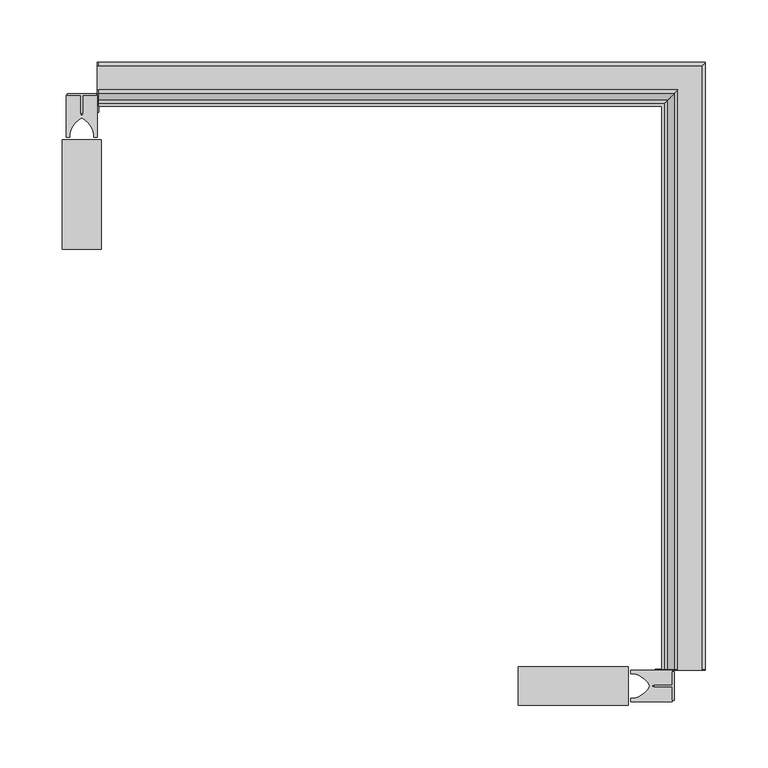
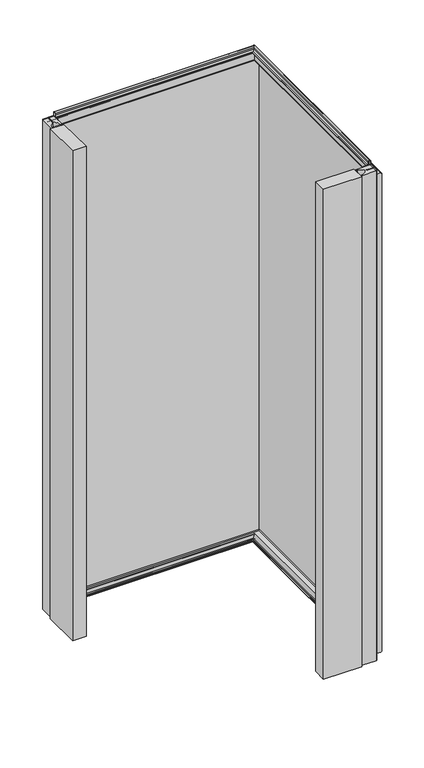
"""IFC4 building model written with IfcOpenShell, lengths in millimetres: plate geometry, Угловой модуль Fronttop : Угловой модуль Fronttop 150/1190."""

import ifcopenshell
import ifcopenshell.guid

model = None  # the IFC model being written
_history = None  # IfcOwnerHistory: only IFC2X3 demands one
_inside = {}  # id of a spatial element -> (the spatial element, [elements in it])
_under = {}  # id of a project, library or spatial element -> (it, [spatial elements below it])
_declared = {}  # id of a project -> (the project, [libraries it declares])
_typed = {}  # id of a type object -> (the type object, [elements of that type])
_made_of = {}  # id of a material, layer set ... -> (it, [elements and type objects made of it])


def new_model(schema):
    """Start an empty IFC model of exactly this schema.

    Asked for "IFC4X3", IfcOpenShell would pick the latest addendum, in which some entities
    have other attributes; the version numbers below select the first issue.
    IFC2X3 requires an IfcOwnerHistory on every rooted entity: one is made here for all.
    """
    global model, _history
    if schema == "IFC4X3":
        model = ifcopenshell.file(schema_version=(4, 3, 0, 0))
    else:
        model = ifcopenshell.file(schema=schema)
    _inside.clear()
    _under.clear()
    _declared.clear()
    _typed.clear()
    _made_of.clear()
    _history = None
    if model.schema == "IFC2X3":
        org = make("IfcOrganization", Name="unknown")
        user = make(
            "IfcPersonAndOrganization",
            ThePerson=make("IfcPerson", FamilyName="unknown"),
            TheOrganization=org,
        )
        app = make(
            "IfcApplication",
            ApplicationDeveloper=org,
            Version="unknown",
            ApplicationFullName="unknown",
            ApplicationIdentifier="unknown",
        )
        _history = make(
            "IfcOwnerHistory",
            OwningUser=user,
            OwningApplication=app,
            ChangeAction="ADDED",
            CreationDate=0,
        )
    return model


def make(cls, **values):
    """One entity of the class cls with the attributes given. An attribute that is None is left unset."""
    return model.create_entity(
        cls, **{name: value for name, value in values.items() if value is not None}
    )


def rooted(cls, **values):
    """An entity with a GlobalId (a new one), such as an element, a storey or a relation."""
    return make(cls, GlobalId=ifcopenshell.guid.new(), OwnerHistory=_history, **values)


def si_unit(unit_type, name, prefix=None):
    """IfcSIUnit, for example si_unit("LENGTHUNIT", "METRE", prefix="MILLI")."""
    return make("IfcSIUnit", UnitType=unit_type, Prefix=prefix, Name=name)


def assignment(units):
    """IfcUnitAssignment: the units of a project."""
    return None if units is None else make("IfcUnitAssignment", Units=units)


def point(xyz):
    """IfcCartesianPoint."""
    return None if xyz is None else make("IfcCartesianPoint", Coordinates=xyz)


def direction(xyz):
    """IfcDirection."""
    return None if xyz is None else make("IfcDirection", DirectionRatios=xyz)


def frame(location, z_axis=None, x_axis=None):
    """IfcAxis2Placement3D, a coordinate frame: its origin and axes. An axis left out is left unset."""
    return make(
        "IfcAxis2Placement3D",
        Location=point(location),
        Axis=direction(z_axis),
        RefDirection=direction(x_axis),
    )


def frame_2d(location, x_axis=None):
    """IfcAxis2Placement2D, a coordinate frame in the plane: its origin and x axis."""
    return make(
        "IfcAxis2Placement2D", Location=point(location), RefDirection=direction(x_axis)
    )


def origin():
    """The frame at (0, 0, 0) with its axes left unset."""
    return frame((0.0, 0.0, 0.0))


def origin_with_axes():
    """The frame at (0, 0, 0) with the z axis (0, 0, 1) and the x axis (1, 0, 0) written out."""
    return frame((0.0, 0.0, 0.0), z_axis=(0.0, 0.0, 1.0), x_axis=(1.0, 0.0, 0.0))


def place(relative_to, where):
    """IfcLocalPlacement: puts the frame where relative to a parent placement (None: the world)."""
    return make(
        "IfcLocalPlacement", PlacementRelTo=relative_to, RelativePlacement=where
    )


def context(
    kind, dimensions, precision=None, world=None, true_north=None, identifier=None
):
    """IfcGeometricRepresentationContext, for example the 3D "Model" context."""
    return make(
        "IfcGeometricRepresentationContext",
        ContextIdentifier=identifier,
        ContextType=kind,
        CoordinateSpaceDimension=dimensions,
        Precision=precision,
        WorldCoordinateSystem=world,
        TrueNorth=true_north,
    )


def project(units=None, contexts=None):
    """IfcProject with its units and contexts."""
    return rooted(
        "IfcProject",
        Name="project",
        RepresentationContexts=contexts,
        UnitsInContext=assignment(units),
    )


def spatial(cls, under=None, at=None, **own):
    """A site, building, storey or space (cls), placed at a placement, below another one or the project."""
    s = rooted(cls, ObjectPlacement=at, **own)
    if under is not None:
        _under.setdefault(under.id(), (under, []))[1].append(s)
    return s


def polyline(points):
    """IfcPolyline through the points."""
    return make("IfcPolyline", Points=[point(p) for p in points])


def circle_curve(where, radius):
    """IfcCircle in the frame where."""
    return make("IfcCircle", Position=where, Radius=radius)


def ellipse_curve(where, semi_axis1, semi_axis2):
    """IfcEllipse in the frame where."""
    return make(
        "IfcEllipse", Position=where, SemiAxis1=semi_axis1, SemiAxis2=semi_axis2
    )


def trimmed(basis, trim1, trim2, sense, master):
    """IfcTrimmedCurve: the piece of a basis curve between two trims."""
    return make(
        "IfcTrimmedCurve",
        BasisCurve=basis,
        Trim1=trim1,
        Trim2=trim2,
        SenseAgreement=sense,
        MasterRepresentation=master,
    )


def segment(curve, same_sense, transition):
    """IfcCompositeCurveSegment."""
    return make(
        "IfcCompositeCurveSegment",
        Transition=transition,
        SameSense=same_sense,
        ParentCurve=curve,
    )


def composite_curve(segments, self_intersect=None):
    """IfcCompositeCurve: segments joined end to end."""
    return make("IfcCompositeCurve", Segments=segments, SelfIntersect=self_intersect)


def outline(outer, holes=None, kind="AREA"):
    """IfcArbitraryClosedProfileDef: a profile drawn as a closed curve; with holes, ...WithVoids."""
    if holes is None:
        return make("IfcArbitraryClosedProfileDef", ProfileType=kind, OuterCurve=outer)
    return make(
        "IfcArbitraryProfileDefWithVoids",
        ProfileType=kind,
        OuterCurve=outer,
        InnerCurves=holes,
    )


def extrude(swept, where, along, depth):
    """IfcExtrudedAreaSolid: the profile swept, set in the frame where, extruded along a direction by depth."""
    return make(
        "IfcExtrudedAreaSolid",
        SweptArea=swept,
        Position=where,
        ExtrudedDirection=direction(along),
        Depth=depth,
    )


def shape(context_of_items, identifier, shape_type, items):
    """IfcShapeRepresentation: the items that make up one representation, for example the "Body"."""
    return make(
        "IfcShapeRepresentation",
        ContextOfItems=context_of_items,
        RepresentationIdentifier=identifier,
        RepresentationType=shape_type,
        Items=items,
    )


def source(mapping_origin, context_of_items, identifier, shape_type, items):
    """IfcRepresentationMap: a shape defined once, which mapped items show again and again."""
    return make(
        "IfcRepresentationMap",
        MappingOrigin=mapping_origin,
        MappedRepresentation=shape(context_of_items, identifier, shape_type, items),
    )


def transform(
    local_origin,
    x_axis=None,
    y_axis=None,
    z_axis=None,
    scale=None,
    scale2=None,
    scale3=None,
    uniform=True,
):
    """IfcCartesianTransformationOperator3D, or its non-uniform kind. x_axis, y_axis, z_axis: its Axis1, 2, 3."""
    if uniform:
        return make(
            "IfcCartesianTransformationOperator3D",
            Axis1=direction(x_axis),
            Axis2=direction(y_axis),
            LocalOrigin=point(local_origin),
            Scale=scale,
            Axis3=direction(z_axis),
        )
    return make(
        "IfcCartesianTransformationOperator3DnonUniform",
        Axis1=direction(x_axis),
        Axis2=direction(y_axis),
        LocalOrigin=point(local_origin),
        Scale=scale,
        Axis3=direction(z_axis),
        Scale2=scale2,
        Scale3=scale3,
    )


def mapped(mapping_source, mapping_target):
    """IfcMappedItem: shows the shape of a source again, moved by a transform."""
    return make(
        "IfcMappedItem", MappingSource=mapping_source, MappingTarget=mapping_target
    )


def made_of(thing, what):
    """Note that an element or type object is made of a material, layer set ...; save() writes the relation."""
    if what is not None:
        _made_of.setdefault(what.id(), (what, []))[1].append(thing)
    return thing


def element(
    cls,
    number,
    at=None,
    inside=None,
    cuts=None,
    type_object=None,
    material=None,
    context=None,
    identifier="Body",
    shape_type=None,
    held_by="IfcProductDefinitionShape",
    body=None,
    shapes=None,
    **own,
):
    """One element of the class cls, such as IfcWall. Its Tag is "e" and its number.

    at: its placement. inside: the storey or other place that contains it. cuts: it is an
    opening in that element (IfcRelVoidsElement). A single representation is given by context,
    identifier, shape_type and body (its items); several are given by shapes. held_by: the class
    of the entity that holds the representations. save() writes the other relations.
    """
    e = rooted(cls, Tag="e%d" % number, ObjectPlacement=at, **own)
    if body is not None:
        shapes = [shape(context, identifier, shape_type, body)]
    if shapes is not None:
        e.Representation = make(held_by, Representations=shapes)
    if inside is not None:
        _inside.setdefault(inside.id(), (inside, []))[1].append(e)
    if cuts is not None:
        rooted(
            "IfcRelVoidsElement", RelatingBuildingElement=cuts, RelatedOpeningElement=e
        )
    if type_object is not None:
        _typed.setdefault(type_object.id(), (type_object, []))[1].append(e)
    return made_of(e, material)


def aggregate(whole, parts):
    """IfcRelAggregates: a whole, such as a stair, and the parts it consists of."""
    return rooted("IfcRelAggregates", RelatingObject=whole, RelatedObjects=parts)


def save(model, path):
    """Write the relations noted so far, then the file.

    IfcRelAggregates (storeys below a building ...), IfcRelContainedInSpatialStructure (elements
    in a storey), IfcRelDefinesByType, IfcRelAssociatesMaterial and IfcRelDeclares: one each for
    every whole, place, type object, material and project.
    """
    for whole, parts in _under.values():
        aggregate(whole, parts)
    for where, things in _inside.values():
        rooted(
            "IfcRelContainedInSpatialStructure",
            RelatedElements=things,
            RelatingStructure=where,
        )
    for kind, things in _typed.values():
        rooted("IfcRelDefinesByType", RelatedObjects=things, RelatingType=kind)
    for what, things in _made_of.values():
        rooted("IfcRelAssociatesMaterial", RelatedObjects=things, RelatingMaterial=what)
    for by, libraries in _declared.values():
        rooted("IfcRelDeclares", RelatingContext=by, RelatedDefinitions=libraries)
    model.write(path)


def plane_surface(at):
    """IfcPlane: the flat surface through the origin of the frame at, square to its z axis."""
    return make("IfcPlane", Position=at)


def cylinder_surface(at, radius):
    """IfcCylindricalSurface: all points at the distance radius from the z axis of the frame at."""
    return make("IfcCylindricalSurface", Position=at, Radius=radius)


def revolved_surface(curve, axis_point, axis_direction):
    """IfcSurfaceOfRevolution: the curve turned about the line through axis_point along axis_direction."""
    return make(
        "IfcSurfaceOfRevolution",
        SweptCurve=make("IfcArbitraryOpenProfileDef", ProfileType="CURVE", Curve=curve),
        AxisPosition=make("IfcAxis1Placement", Location=point(axis_point), Axis=direction(axis_direction)),
    )


def advanced_brep(points, edges, surfaces, faces):
    """IfcAdvancedBrep: a solid bounded by faces that lie on surfaces and meet in shared edges.

    An edge is (start, end): straight between two places in points (the first is 0);
    or (start, end, curve); or (start, end, curve, False) where it runs against its curve.
    A face is (place in surfaces, loops), or (place, loops, False) where it looks against
    its surface's normal. A loop lists edges by number (the first is 1), with a minus sign
    where the edge is run from its end to its start. The first loop is the outer one.
    """
    corners = [point(p) for p in points]
    vertices = [make("IfcVertexPoint", VertexGeometry=c) for c in corners]
    made = []
    for start, end, *more in edges:
        made.append(
            make(
                "IfcEdgeCurve",
                EdgeStart=vertices[start],
                EdgeEnd=vertices[end],
                EdgeGeometry=more[0] if more else make("IfcPolyline", Points=[corners[start], corners[end]]),
                SameSense=more[1] if len(more) > 1 else True,
            )
        )
    hull = []
    for where, loops, *sense in faces:
        bounds = []
        for j, loop in enumerate(loops):
            ring = [make("IfcOrientedEdge", EdgeElement=made[abs(k) - 1], Orientation=k > 0) for k in loop]
            bounds.append(
                make(
                    "IfcFaceOuterBound" if j == 0 else "IfcFaceBound",
                    Bound=make("IfcEdgeLoop", EdgeList=ring),
                    Orientation=True,
                )
            )
        hull.append(make("IfcAdvancedFace", Bounds=bounds, FaceSurface=surfaces[where], SameSense=sense[0] if sense else True))
    return make("IfcAdvancedBrep", Outer=make("IfcClosedShell", CfsFaces=hull))


def plate_e2e9dd5a(model_context):
    return source(origin(), model_context, "Body", "SolidModel", [
        extrude(outline(polyline([(225.0, -338.4948846), (225.0, -361.5051154), (223.5, -361.5051154), (223.5, -350.6502496), (209.0759655, -350.6502496), (209.0759655, -349.35), (223.5, -349.35), (223.5, -338.4948846), (225.0, -338.4948846)])), origin_with_axes(), (0.0, 0.0, 1.0), 1190.0),
        extrude(outline(composite_curve([segment(polyline([(223.5, -337.4998455), (223.5, -349.25), (207.5, -349.25), (207.5, -350.75), (223.5, -350.75), (223.5, -362.5001545), (190.0, -362.5001545), (190.0, -359.75), (192.5, -359.75)]), True, "CONTINUOUS"), segment(trimmed(circle_curve(frame_2d((189.3183984, -341.9661979)), 18.0661619), [point((192.5, -359.75))], [point((205.5, -350.0))], True, "CARTESIAN"), True, "CONTINUOUS"), segment(trimmed(circle_curve(frame_2d((189.3183984, -358.0338021)), 18.0661619), [point((205.5, -350.0))], [point((192.5, -340.25))], True, "CARTESIAN"), True, "CONTINUOUS"), segment(polyline([(192.5, -340.25), (190.0, -340.25), (190.0, -337.4998455), (223.5, -337.4998455)]), True, "CONTINUOUS")], self_intersect=False)), origin_with_axes(), (0.0, 0.0, 1.0), 1190.0),
        extrude(outline(polyline([(100.0, -365.5), (100.0, -334.5), (188.0, -334.5), (188.0, -365.5), (100.0, -365.5)])), origin_with_axes(), (0.0, 0.0, 1.0), 1190.0),
        extrude(outline(polyline([(-261.5051154, 125.0), (-238.4948846, 125.0), (-238.4948846, 123.5), (-249.3497504, 123.5), (-249.3497504, 109.0759655), (-250.65, 109.0759655), (-250.65, 123.5), (-261.5051154, 123.5), (-261.5051154, 125.0)])), origin_with_axes(), (0.0, 0.0, 1.0), 1190.0),
        extrude(outline(composite_curve([segment(polyline([(-262.5001545, 123.5), (-250.75, 123.5), (-250.75, 107.5), (-249.25, 107.5), (-249.25, 123.5), (-237.4998455, 123.5), (-237.4998455, 90.0), (-240.25, 90.0), (-240.25, 92.5)]), True, "CONTINUOUS"), segment(trimmed(circle_curve(frame_2d((-258.0338021, 89.3183984)), 18.0661619), [point((-240.25, 92.5))], [point((-250.0, 105.5))], True, "CARTESIAN"), True, "CONTINUOUS"), segment(trimmed(circle_curve(frame_2d((-241.9661979, 89.3183984)), 18.0661619), [point((-250.0, 105.5))], [point((-259.75, 92.5))], True, "CARTESIAN"), True, "CONTINUOUS"), segment(polyline([(-259.75, 92.5), (-259.75, 90.0), (-262.5001545, 90.0), (-262.5001545, 123.5)]), True, "CONTINUOUS")], self_intersect=False)), origin_with_axes(), (0.0, 0.0, 1.0), 1190.0),
        extrude(outline(polyline([(-234.5, 0.0), (-265.5, 0.0), (-265.5, 88.0), (-234.5, 88.0), (-234.5, 0.0)])), origin_with_axes(), (0.0, 0.0, 1.0), 1190.0),
        advanced_brep(
        [(-236.5, 124.0, 1198.0), (-236.5, 121.0, 1198.0), (-236.5, 121.0, 1194.0), (-236.5, 117.0, 1190.0), (-236.5, 115.0, 1190.0), (-236.5, 115.0, 1191.0), (-236.5, 117.0, 1191.0), (-236.5, 120.0, 1194.0), (-236.5, 120.0, 1198.0), (-236.5, 125.0, 1198.0), (-236.5, 125.0, 1190.0), (-236.5, 124.0, 1190.0), (-236.5, 115.0, 2.0), (215.0, 115.0, 2.0), (215.0, 115.0, 3.0), (-236.5, 115.0, 3.0), (215.0, -336.5, 3.0), (217.0, -336.5, 3.0), (217.0, 117.0, 3.0), (-236.5, 117.0, 3.0), (218.0, 118.0, 4.0), (-236.5, 118.0, 4.0), (218.0, 118.0, 8.0), (-236.5, 118.0, 8.0), (227.0, 127.0, 8.0), (-236.5, 127.0, 8.0), (227.0, 127.0, 0.0), (-236.5, 127.0, 0.0), (229.0, 129.0, -2.0), (-236.5, 129.0, -2.0), (229.0, -336.5, -2.0), (247.0, -336.5, -2.0), (247.0, 147.0, -2.0), (-236.5, 147.0, -2.0), (249.0, 149.0, 0.0), (-236.5, 149.0, 0.0), (249.0, 149.0, 1159.0), (-236.5, 149.0, 1159.0), (247.0, 147.0, 1161.0), (-236.5, 147.0, 1161.0), (247.0, -336.5, 1161.0), (228.0, -336.5, 1161.0), (228.0, 128.0, 1161.0), (-236.5, 128.0, 1161.0), (224.0, 124.0, 1165.0), (-236.5, 124.0, 1165.0), (224.0, 124.0, 1198.0), (221.0, 121.0, 1198.0), (221.0, 121.0, 1194.0), (217.0, 117.0, 1190.0), (217.0, -336.5, 1190.0), (215.0, -336.5, 1190.0), (215.0, 115.0, 1190.0), (215.0, 115.0, 1191.0), (215.0, -336.5, 1191.0), (217.0, -336.5, 1191.0), (217.0, 117.0, 1191.0), (220.0, 120.0, 1194.0), (220.0, 120.0, 1198.0), (225.0, 125.0, 1198.0), (225.0, 125.0, 1165.0), (-236.5, 125.0, 1165.0), (-237.5, 125.0, 1165.0), (-237.5, 125.0, 1190.0), (228.0, 128.0, 1162.0), (-236.5, 128.0, 1162.0), (228.0, -336.5, 1162.0), (228.0, -337.5, 1162.0), (247.0, -337.5, 1162.0), (247.0, -336.5, 1162.0), (247.0, 147.0, 1162.0), (-236.5, 147.0, 1162.0), (-237.5, 147.0, 1162.0), (-237.5, 128.0, 1162.0), (250.0, 150.0, 1159.0), (-236.5, 150.0, 1159.0), (250.0, 150.0, 0.0), (-236.5, 150.0, 0.0), (-237.5, 150.0, 0.0), (-237.5, 150.0, 1159.0), (247.0, 147.0, -3.0), (-236.5, 147.0, -3.0), (247.0, -336.5, -3.0), (247.0, -337.5, -3.0), (225.0, -337.5, -3.0), (225.0, -336.5, -3.0), (229.0, -336.5, -3.0), (229.0, 129.0, -3.0), (-236.5, 129.0, -3.0), (-236.5, 125.0, -3.0), (-237.5, 125.0, -3.0), (-237.5, 147.0, -3.0), (226.0, 126.0, 0.0), (-236.5, 126.0, 0.0), (226.0, 126.0, 8.0), (-236.5, 126.0, 8.0), (219.0, 119.0, 8.0), (-236.5, 119.0, 8.0), (219.0, 119.0, 4.0), (-236.5, 119.0, 4.0), (217.0, 117.0, 2.0), (-236.5, 117.0, 2.0), (217.0, -336.5, 2.0), (215.0, -336.5, 2.0), (221.0, -336.5, 1194.0), (221.0, -336.5, 1198.0), (224.0, -336.5, 1198.0), (224.0, -336.5, 1190.0), (225.0, -336.5, 1190.0), (225.0, -336.5, 1198.0), (220.0, -336.5, 1198.0), (220.0, -336.5, 1194.0), (218.0, -336.5, 4.0), (218.0, -336.5, 8.0), (227.0, -336.5, 8.0), (227.0, -336.5, 0.0), (249.0, -336.5, 0.0), (249.0, -336.5, 1159.0), (224.0, -336.5, 1165.0), (225.0, -337.5, 1190.0), (225.0, -337.5, 1165.0), (225.0, -336.5, 1165.0), (250.0, -336.5, 1159.0), (250.0, -337.5, 1159.0), (250.0, -337.5, 0.0), (250.0, -336.5, 0.0), (226.0, -336.5, 0.0), (226.0, -336.5, 8.0), (219.0, -336.5, 8.0), (219.0, -336.5, 4.0), (-236.5, 110.0, 1190.0), (-236.5, 110.0, 0.0), (-236.5, 125.0, 0.0), (-237.5, 125.0, 0.0), (-237.5, 110.0, 0.0), (-237.5, 110.0, 1190.0), (210.0, -336.5, 0.0), (210.0, -336.5, 1190.0), (225.0, -336.5, 0.0), (210.0, -337.5, 0.0), (225.0, -337.5, 0.0), (210.0, -337.5, 1190.0)],
        [
            (0, 1, circle_curve(frame((-236.5, 122.5, 1198.0), z_axis=(1.0, 0.0, 0.0), x_axis=(0.0, -1.0, 0.0)), 1.5)),
            (1, 2),
            (2, 3, circle_curve(frame((-236.5, 117.0, 1194.0), z_axis=(-1.0, 0.0, 0.0), x_axis=(0.0, -1.0, 0.0)), 4.0)),
            (3, 4),
            (4, 5),
            (5, 6),
            (6, 7, circle_curve(frame((-236.5, 117.0, 1194.0), z_axis=(1.0, 0.0, 0.0), x_axis=(0.0, -1.0, 0.0)), 3.0)),
            (7, 8),
            (8, 9, circle_curve(frame((-236.5, 122.5, 1198.0), z_axis=(-1.0, 0.0, 0.0), x_axis=(0.0, -1.0, 0.0)), 2.5)),
            (9, 10),
            (10, 11),
            (11, 0),
            (12, 13),
            (13, 14),
            (14, 15),
            (15, 12),
            (14, 16),
            (16, 17),
            (17, 18),
            (18, 19),
            (19, 15),
            (18, 20, ellipse_curve(frame((217.0, 117.0, 4.0), z_axis=(0.7071067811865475, -0.7071067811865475, 0.0), x_axis=(0.7071067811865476, 0.7071067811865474, 0.0)), 1.4142136, 1.0)),
            (20, 21),
            (21, 19, circle_curve(frame((-236.5, 117.0, 4.0), z_axis=(-1.0, 0.0, 0.0), x_axis=(0.0, -1.0, 0.0)), 1.0)),
            (20, 22),
            (22, 23),
            (23, 21),
            (22, 24, ellipse_curve(frame((222.5, 122.5, 8.0), z_axis=(-0.7071067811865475, 0.7071067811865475, 0.0), x_axis=(-0.7071067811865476, -0.7071067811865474, 0.0)), 6.363961, 4.5)),
            (24, 25),
            (25, 23, circle_curve(frame((-236.5, 122.5, 8.0), z_axis=(1.0, 0.0, 0.0), x_axis=(0.0, -1.0, 0.0)), 4.5)),
            (24, 26),
            (26, 27),
            (27, 25),
            (26, 28, ellipse_curve(frame((229.0, 129.0, 0.0), z_axis=(0.7071067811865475, -0.7071067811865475, 0.0), x_axis=(0.7071067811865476, 0.7071067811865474, 0.0)), 2.8284271, 2.0)),
            (28, 29),
            (29, 27, circle_curve(frame((-236.5, 129.0, 0.0), z_axis=(-1.0, 0.0, 0.0), x_axis=(0.0, -1.0, 0.0)), 2.0)),
            (28, 30),
            (30, 31),
            (31, 32),
            (32, 33),
            (33, 29),
            (32, 34, ellipse_curve(frame((247.0, 147.0, 0.0), z_axis=(0.7071067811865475, -0.7071067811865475, 0.0), x_axis=(0.7071067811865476, 0.7071067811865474, 0.0)), 2.8284271, 2.0)),
            (34, 35),
            (35, 33, circle_curve(frame((-236.5, 147.0, 0.0), z_axis=(-1.0, 0.0, 0.0), x_axis=(0.0, -1.0, 0.0)), 2.0)),
            (34, 36),
            (36, 37),
            (37, 35),
            (36, 38, ellipse_curve(frame((247.0, 147.0, 1159.0), z_axis=(0.7071067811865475, -0.7071067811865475, 0.0), x_axis=(0.7071067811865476, 0.7071067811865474, 0.0)), 2.8284271, 2.0)),
            (38, 39),
            (39, 37, circle_curve(frame((-236.5, 147.0, 1159.0), z_axis=(-1.0, 0.0, 0.0), x_axis=(0.0, -1.0, 0.0)), 2.0)),
            (38, 40),
            (40, 41),
            (41, 42),
            (42, 43),
            (43, 39),
            (42, 44, ellipse_curve(frame((228.0, 128.0, 1165.0), z_axis=(-0.7071067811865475, 0.7071067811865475, 0.0), x_axis=(-0.7071067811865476, -0.7071067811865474, 0.0)), 5.6568542, 4.0)),
            (44, 45),
            (45, 43, circle_curve(frame((-236.5, 128.0, 1165.0), z_axis=(1.0, 0.0, 0.0), x_axis=(0.0, -1.0, 0.0)), 4.0)),
            (44, 46),
            (46, 0),
            (11, 45),
            (46, 47, ellipse_curve(frame((222.5, 122.5, 1198.0), z_axis=(0.7071067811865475, -0.7071067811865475, 0.0), x_axis=(0.7071067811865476, 0.7071067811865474, 0.0)), 2.1213203, 1.5)),
            (47, 1),
            (47, 48),
            (48, 2),
            (48, 49, ellipse_curve(frame((217.0, 117.0, 1194.0), z_axis=(-0.7071067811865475, 0.7071067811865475, 0.0), x_axis=(-0.7071067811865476, -0.7071067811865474, 0.0)), 5.6568542, 4.0)),
            (49, 3),
            (49, 50),
            (50, 51),
            (51, 52),
            (52, 4),
            (4, 3),
            (52, 53),
            (53, 5),
            (53, 54),
            (54, 55),
            (55, 56),
            (56, 6),
            (56, 57, ellipse_curve(frame((217.0, 117.0, 1194.0), z_axis=(0.7071067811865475, -0.7071067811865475, 0.0), x_axis=(0.7071067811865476, 0.7071067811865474, 0.0)), 4.2426407, 3.0)),
            (57, 7),
            (57, 58),
            (58, 8),
            (58, 59, ellipse_curve(frame((222.5, 122.5, 1198.0), z_axis=(-0.7071067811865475, 0.7071067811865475, 0.0), x_axis=(-0.7071067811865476, -0.7071067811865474, 0.0)), 3.5355339, 2.5)),
            (59, 9),
            (59, 60),
            (60, 61),
            (61, 62),
            (62, 63),
            (63, 10),
            (60, 64, ellipse_curve(frame((228.0, 128.0, 1165.0), z_axis=(0.7071067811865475, -0.7071067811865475, 0.0), x_axis=(0.7071067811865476, 0.7071067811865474, 0.0)), 4.2426407, 3.0)),
            (64, 65),
            (65, 61, circle_curve(frame((-236.5, 128.0, 1165.0), z_axis=(-1.0, 0.0, 0.0), x_axis=(0.0, -1.0, 0.0)), 3.0)),
            (64, 66),
            (66, 67),
            (67, 68),
            (68, 69),
            (69, 70),
            (70, 71),
            (71, 72),
            (72, 73),
            (73, 65),
            (70, 74, ellipse_curve(frame((247.0, 147.0, 1159.0), z_axis=(-0.7071067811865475, 0.7071067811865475, 0.0), x_axis=(-0.7071067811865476, -0.7071067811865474, 0.0)), 4.2426407, 3.0)),
            (74, 75),
            (75, 71, circle_curve(frame((-236.5, 147.0, 1159.0), z_axis=(1.0, 0.0, 0.0), x_axis=(0.0, -1.0, 0.0)), 3.0)),
            (74, 76),
            (76, 77),
            (77, 78),
            (78, 79),
            (79, 75),
            (76, 80, ellipse_curve(frame((247.0, 147.0, 0.0), z_axis=(-0.7071067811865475, 0.7071067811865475, 0.0), x_axis=(-0.7071067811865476, -0.7071067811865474, 0.0)), 4.2426407, 3.0)),
            (80, 81),
            (81, 77, circle_curve(frame((-236.5, 147.0, 0.0), z_axis=(1.0, 0.0, 0.0), x_axis=(0.0, -1.0, 0.0)), 3.0)),
            (80, 82),
            (82, 83),
            (83, 84),
            (84, 85),
            (85, 86),
            (86, 87),
            (87, 88),
            (88, 89),
            (89, 90),
            (90, 91),
            (91, 81),
            (87, 92, ellipse_curve(frame((229.0, 129.0, 0.0), z_axis=(-0.7071067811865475, 0.7071067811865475, 0.0), x_axis=(-0.7071067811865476, -0.7071067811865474, 0.0)), 4.2426407, 3.0)),
            (92, 93),
            (93, 88, circle_curve(frame((-236.5, 129.0, 0.0), z_axis=(1.0, 0.0, 0.0), x_axis=(0.0, -1.0, 0.0)), 3.0)),
            (92, 94),
            (94, 95),
            (95, 93),
            (94, 96, ellipse_curve(frame((222.5, 122.5, 8.0), z_axis=(0.7071067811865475, -0.7071067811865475, 0.0), x_axis=(0.7071067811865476, 0.7071067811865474, 0.0)), 4.9497475, 3.5)),
            (96, 97),
            (97, 95, circle_curve(frame((-236.5, 122.5, 8.0), z_axis=(-1.0, 0.0, 0.0), x_axis=(0.0, -1.0, 0.0)), 3.5)),
            (96, 98),
            (98, 99),
            (99, 97),
            (98, 100, ellipse_curve(frame((217.0, 117.0, 4.0), z_axis=(-0.7071067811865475, 0.7071067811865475, 0.0), x_axis=(-0.7071067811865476, -0.7071067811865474, 0.0)), 2.8284271, 2.0)),
            (100, 101),
            (101, 99, circle_curve(frame((-236.5, 117.0, 4.0), z_axis=(1.0, 0.0, 0.0), x_axis=(0.0, -1.0, 0.0)), 2.0)),
            (12, 101),
            (100, 102),
            (102, 103),
            (103, 13),
            (54, 51),
            (51, 50),
            (50, 104, circle_curve(frame((217.0, -336.5, 1194.0), z_axis=(0.0, -1.0, 0.0), x_axis=(-1.0, 0.0, 0.0)), 4.0)),
            (104, 105),
            (105, 106, circle_curve(frame((222.5, -336.5, 1198.0), z_axis=(0.0, 1.0, 0.0), x_axis=(-1.0, 0.0, 0.0)), 1.5)),
            (106, 107),
            (107, 108),
            (108, 109),
            (109, 110, circle_curve(frame((222.5, -336.5, 1198.0), z_axis=(0.0, -1.0, 0.0), x_axis=(-1.0, 0.0, 0.0)), 2.5)),
            (110, 111),
            (111, 55, circle_curve(frame((217.0, -336.5, 1194.0), z_axis=(0.0, 1.0, 0.0), x_axis=(-1.0, 0.0, 0.0)), 3.0)),
            (103, 16),
            (17, 112, circle_curve(frame((217.0, -336.5, 4.0), z_axis=(0.0, -1.0, 0.0), x_axis=(-1.0, 0.0, 0.0)), 1.0)),
            (112, 20),
            (112, 113),
            (113, 22),
            (113, 114, circle_curve(frame((222.5, -336.5, 8.0), z_axis=(0.0, 1.0, 0.0), x_axis=(-1.0, 0.0, 0.0)), 4.5)),
            (114, 24),
            (114, 115),
            (115, 26),
            (115, 30, circle_curve(frame((229.0, -336.5, 0.0), z_axis=(0.0, -1.0, 0.0), x_axis=(-1.0, 0.0, 0.0)), 2.0)),
            (31, 116, circle_curve(frame((247.0, -336.5, 0.0), z_axis=(0.0, -1.0, 0.0), x_axis=(-1.0, 0.0, 0.0)), 2.0)),
            (116, 34),
            (116, 117),
            (117, 36),
            (117, 40, circle_curve(frame((247.0, -336.5, 1159.0), z_axis=(0.0, -1.0, 0.0), x_axis=(-1.0, 0.0, 0.0)), 2.0)),
            (41, 118, circle_curve(frame((228.0, -336.5, 1165.0), z_axis=(0.0, 1.0, 0.0), x_axis=(-1.0, 0.0, 0.0)), 4.0)),
            (118, 44),
            (118, 107),
            (106, 46),
            (105, 47),
            (104, 48),
            (111, 57),
            (110, 58),
            (109, 59),
            (108, 119),
            (119, 120),
            (120, 121),
            (121, 60),
            (121, 66, circle_curve(frame((228.0, -336.5, 1165.0), z_axis=(0.0, -1.0, 0.0), x_axis=(-1.0, 0.0, 0.0)), 3.0)),
            (69, 122, circle_curve(frame((247.0, -336.5, 1159.0), z_axis=(0.0, 1.0, 0.0), x_axis=(-1.0, 0.0, 0.0)), 3.0)),
            (122, 74),
            (122, 123),
            (123, 124),
            (124, 125),
            (125, 76),
            (125, 82, circle_curve(frame((247.0, -336.5, 0.0), z_axis=(0.0, 1.0, 0.0), x_axis=(-1.0, 0.0, 0.0)), 3.0)),
            (86, 126, circle_curve(frame((229.0, -336.5, 0.0), z_axis=(0.0, 1.0, 0.0), x_axis=(-1.0, 0.0, 0.0)), 3.0)),
            (126, 92),
            (126, 127),
            (127, 94),
            (127, 128, circle_curve(frame((222.5, -336.5, 8.0), z_axis=(0.0, -1.0, 0.0), x_axis=(-1.0, 0.0, 0.0)), 3.5)),
            (128, 96),
            (128, 129),
            (129, 98),
            (129, 102, circle_curve(frame((217.0, -336.5, 4.0), z_axis=(0.0, 1.0, 0.0), x_axis=(-1.0, 0.0, 0.0)), 2.0)),
            (130, 131),
            (131, 132),
            (132, 89),
            (11, 3),
            (4, 130),
            (62, 73, circle_curve(frame((-237.5, 128.0, 1165.0), z_axis=(1.0, 0.0, 0.0), x_axis=(0.0, 1.0, 0.0)), 3.0)),
            (72, 79, circle_curve(frame((-237.5, 147.0, 1159.0), z_axis=(-1.0, 0.0, 0.0), x_axis=(0.0, 1.0, 0.0)), 3.0)),
            (78, 91, circle_curve(frame((-237.5, 147.0, 0.0), z_axis=(-1.0, 0.0, 0.0), x_axis=(0.0, 1.0, 0.0)), 3.0)),
            (90, 133),
            (133, 134),
            (134, 135),
            (135, 63),
            (135, 130),
            (134, 131),
            (133, 132),
            (136, 137),
            (137, 51),
            (50, 107),
            (85, 138),
            (138, 136),
            (139, 140),
            (140, 84),
            (83, 124, circle_curve(frame((247.0, -337.5, 0.0), z_axis=(0.0, -1.0, 0.0), x_axis=(-1.0, 0.0, 0.0)), 3.0)),
            (123, 68, circle_curve(frame((247.0, -337.5, 1159.0), z_axis=(0.0, -1.0, 0.0), x_axis=(-1.0, 0.0, 0.0)), 3.0)),
            (67, 120, circle_curve(frame((228.0, -337.5, 1165.0), z_axis=(0.0, 1.0, 0.0), x_axis=(-1.0, 0.0, 0.0)), 3.0)),
            (119, 141),
            (141, 139),
            (138, 140),
            (139, 136),
            (137, 141),
        ],
        [
            plane_surface(frame((-236.5, 0.0, 0.0), z_axis=(-1.0, 0.0, 0.0), x_axis=(0.0, 0.0, 1.0))),
            plane_surface(frame((-236.5, 115.0, 2.0), z_axis=(0.0, -1.0, 0.0), x_axis=(1.0, 0.0, 0.0))),
            plane_surface(frame((-236.5, 115.0, 3.0), z_axis=(0.0, 0.0, 1.0), x_axis=(1.0, 0.0, 0.0))),
            revolved_surface(polyline([(218.00000002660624, 116.0, 4.0), (-236.5, 116.0, 4.0)]), (-236.5, 117.0, 4.0), (1.0, 0.0, 0.0)),
            plane_surface(frame((-236.5, 118.0, 4.0), z_axis=(0.0, -1.0, 0.0), x_axis=(1.0, 0.0, 0.0))),
            cylinder_surface(frame((-236.5, 122.5, 8.0), z_axis=(-1.0, 0.0, 0.0), x_axis=(0.0, -1.0, 0.0)), 4.5),
            plane_surface(frame((-236.5, 127.0, 8.0), z_axis=(0.0, 1.0, 0.0), x_axis=(1.0, 0.0, 0.0))),
            revolved_surface(polyline([(230.99999998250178, 127.0, 0.0), (-236.5, 127.0, 0.0)]), (-236.5, 129.0, 0.0), (1.0, 0.0, 0.0)),
            plane_surface(frame((-236.5, 129.0, -2.0), z_axis=(0.0, 0.0, 1.0), x_axis=(1.0, 0.0, 0.0))),
            revolved_surface(polyline([(249.0, 145.0, 0.0), (-236.5, 145.0, 0.0)]), (-236.5, 147.0, 0.0), (1.0, 0.0, 0.0)),
            plane_surface(frame((-236.5, 149.0, 0.0), z_axis=(0.0, -1.0, 0.0), x_axis=(1.0, 0.0, 0.0))),
            revolved_surface(polyline([(249.0, 145.0, 1159.0), (-236.5, 145.0, 1159.0)]), (-236.5, 147.0, 1159.0), (1.0, 0.0, 0.0)),
            plane_surface(frame((-236.5, 147.0, 1161.0), z_axis=(0.0, 0.0, -1.0), x_axis=(1.0, 0.0, 0.0))),
            cylinder_surface(frame((-236.5, 128.0, 1165.0), z_axis=(-1.0, 0.0, 0.0), x_axis=(0.0, -1.0, 0.0)), 4.0),
            plane_surface(frame((-236.5, 124.0, 1165.0), z_axis=(0.0, -1.0, 0.0), x_axis=(1.0, 0.0, 0.0))),
            revolved_surface(polyline([(224.0, 121.0, 1198.0), (-236.5, 121.0, 1198.0)]), (-236.5, 122.5, 1198.0), (1.0, 0.0, 0.0)),
            plane_surface(frame((-236.5, 121.0, 1198.0), z_axis=(0.0, 1.0, 0.0), x_axis=(1.0, 0.0, 0.0))),
            cylinder_surface(frame((-236.5, 117.0, 1194.0), z_axis=(-1.0, 0.0, 0.0), x_axis=(0.0, -1.0, 0.0)), 4.0),
            plane_surface(frame((-236.5, 117.0, 1190.0), z_axis=(0.0, 0.0, -1.0), x_axis=(1.0, 0.0, 0.0))),
            plane_surface(frame((-236.5, 115.0, 1190.0), z_axis=(0.0, -1.0, 0.0), x_axis=(1.0, 0.0, 0.0))),
            plane_surface(frame((-236.5, 115.0, 1191.0), z_axis=(0.0, 0.0, 1.0), x_axis=(1.0, 0.0, 0.0))),
            revolved_surface(polyline([(220.00000000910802, 114.0, 1194.0), (-236.5, 114.0, 1194.0)]), (-236.5, 117.0, 1194.0), (1.0, 0.0, 0.0)),
            plane_surface(frame((-236.5, 120.0, 1194.0), z_axis=(0.0, -1.0, 0.0), x_axis=(1.0, 0.0, 0.0))),
            cylinder_surface(frame((-236.5, 122.5, 1198.0), z_axis=(-1.0, 0.0, 0.0), x_axis=(0.0, -1.0, 0.0)), 2.5),
            plane_surface(frame((-236.5, 125.0, 1198.0), z_axis=(0.0, 1.0, 0.0), x_axis=(1.0, 0.0, 0.0))),
            revolved_surface(polyline([(231.00000000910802, 125.0, 1165.0), (-236.5, 125.0, 1165.0)]), (-236.5, 128.0, 1165.0), (1.0, 0.0, 0.0)),
            plane_surface(frame((-236.5, 128.0, 1162.0), z_axis=(0.0, 0.0, 1.0), x_axis=(1.0, 0.0, 0.0))),
            cylinder_surface(frame((-236.5, 147.0, 1159.0), z_axis=(-1.0, 0.0, 0.0), x_axis=(0.0, -1.0, 0.0)), 3.0),
            plane_surface(frame((-236.5, 150.0, 1159.0), z_axis=(0.0, 1.0, 0.0), x_axis=(1.0, 0.0, 0.0))),
            cylinder_surface(frame((-236.5, 147.0, 0.0), z_axis=(-1.0, 0.0, 0.0), x_axis=(0.0, -1.0, 0.0)), 3.0),
            plane_surface(frame((-236.5, 147.0, -3.0), z_axis=(0.0, 0.0, -1.0), x_axis=(1.0, 0.0, 0.0))),
            cylinder_surface(frame((-236.5, 129.0, 0.0), z_axis=(-1.0, 0.0, 0.0), x_axis=(0.0, -1.0, 0.0)), 3.0),
            plane_surface(frame((-236.5, 126.0, 0.0), z_axis=(0.0, -1.0, 0.0), x_axis=(1.0, 0.0, 0.0))),
            revolved_surface(polyline([(226.00000002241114, 119.0, 8.0), (-236.5, 119.0, 8.0)]), (-236.5, 122.5, 8.0), (1.0, 0.0, 0.0)),
            plane_surface(frame((-236.5, 119.0, 8.0), z_axis=(0.0, 1.0, 0.0), x_axis=(1.0, 0.0, 0.0))),
            cylinder_surface(frame((-236.5, 117.0, 4.0), z_axis=(-1.0, 0.0, 0.0), x_axis=(0.0, -1.0, 0.0)), 2.0),
            plane_surface(frame((-236.5, 117.0, 2.0), z_axis=(0.0, 0.0, -1.0), x_axis=(1.0, 0.0, 0.0))),
            plane_surface(frame((100.0, -336.5, 0.0), z_axis=(0.0, -1.0, 0.0), x_axis=(0.0, 0.0, 1.0))),
            plane_surface(frame((215.0, 115.0, 2.0), z_axis=(-1.0, 0.0, 0.0), x_axis=(0.0, -1.0, 0.0))),
            revolved_surface(polyline([(216.0, -336.5, 4.0), (216.0, 118.00000002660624, 4.0)]), (217.0, 0.0, 4.0), (0.0, -1.0, 0.0)),
            plane_surface(frame((218.0, 118.0, 4.0), z_axis=(-1.0, 0.0, 0.0), x_axis=(0.0, -1.0, 0.0))),
            cylinder_surface(frame((222.5, 0.0, 8.0), z_axis=(0.0, 1.0, 0.0), x_axis=(-1.0, 0.0, 0.0)), 4.5),
            plane_surface(frame((227.0, 127.0, 8.0), z_axis=(1.0, 0.0, 0.0), x_axis=(0.0, -1.0, 0.0))),
            revolved_surface(polyline([(227.0, -336.5, 0.0), (227.0, 130.9999999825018, 0.0)]), (229.0, 0.0, 0.0), (0.0, -1.0, 0.0)),
            revolved_surface(polyline([(245.0, -336.5, 0.0), (245.0, 149.0, 0.0)]), (247.0, 0.0, 0.0), (0.0, -1.0, 0.0)),
            plane_surface(frame((249.0, 149.0, 0.0), z_axis=(-1.0, 0.0, 0.0), x_axis=(0.0, -1.0, 0.0))),
            revolved_surface(polyline([(245.0, -336.5, 1159.0), (245.0, 149.0, 1159.0)]), (247.0, 0.0, 1159.0), (0.0, -1.0, 0.0)),
            cylinder_surface(frame((228.0, 0.0, 1165.0), z_axis=(0.0, 1.0, 0.0), x_axis=(-1.0, 0.0, 0.0)), 4.0),
            plane_surface(frame((224.0, 124.0, 1165.0), z_axis=(-1.0, 0.0, 0.0), x_axis=(0.0, -1.0, 0.0))),
            revolved_surface(polyline([(221.0, -336.5, 1198.0), (221.0, 124.0, 1198.0)]), (222.5, 0.0, 1198.0), (0.0, -1.0, 0.0)),
            plane_surface(frame((221.0, 121.0, 1198.0), z_axis=(1.0, 0.0, 0.0), x_axis=(0.0, -1.0, 0.0))),
            cylinder_surface(frame((217.0, 0.0, 1194.0), z_axis=(0.0, 1.0, 0.0), x_axis=(-1.0, 0.0, 0.0)), 4.0),
            plane_surface(frame((215.0, 115.0, 1190.0), z_axis=(-1.0, 0.0, 0.0), x_axis=(0.0, -1.0, 0.0))),
            revolved_surface(polyline([(214.0, -336.5, 1194.0), (214.0, 120.00000000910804, 1194.0)]), (217.0, 0.0, 1194.0), (0.0, -1.0, 0.0)),
            plane_surface(frame((220.0, 120.0, 1194.0), z_axis=(-1.0, 0.0, 0.0), x_axis=(0.0, -1.0, 0.0))),
            cylinder_surface(frame((222.5, 0.0, 1198.0), z_axis=(0.0, 1.0, 0.0), x_axis=(-1.0, 0.0, 0.0)), 2.5),
            plane_surface(frame((225.0, 125.0, 1198.0), z_axis=(1.0, 0.0, 0.0), x_axis=(0.0, -1.0, 0.0))),
            revolved_surface(polyline([(225.0, -336.5, 1165.0), (225.0, 131.00000000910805, 1165.0)]), (228.0, 0.0, 1165.0), (0.0, -1.0, 0.0)),
            cylinder_surface(frame((247.0, 0.0, 1159.0), z_axis=(0.0, 1.0, 0.0), x_axis=(-1.0, 0.0, 0.0)), 3.0),
            plane_surface(frame((250.0, 150.0, 1159.0), z_axis=(1.0, 0.0, 0.0), x_axis=(0.0, -1.0, 0.0))),
            cylinder_surface(frame((247.0, 0.0, 0.0), z_axis=(0.0, 1.0, 0.0), x_axis=(-1.0, 0.0, 0.0)), 3.0),
            cylinder_surface(frame((229.0, 0.0, 0.0), z_axis=(0.0, 1.0, 0.0), x_axis=(-1.0, 0.0, 0.0)), 3.0),
            plane_surface(frame((226.0, 126.0, 0.0), z_axis=(-1.0, 0.0, 0.0), x_axis=(0.0, -1.0, 0.0))),
            revolved_surface(polyline([(219.0, -336.5, 8.0), (219.0, 126.00000002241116, 8.0)]), (222.5, 0.0, 8.0), (0.0, -1.0, 0.0)),
            plane_surface(frame((219.0, 119.0, 8.0), z_axis=(1.0, 0.0, 0.0), x_axis=(0.0, -1.0, 0.0))),
            cylinder_surface(frame((217.0, 0.0, 4.0), z_axis=(0.0, 1.0, 0.0), x_axis=(-1.0, 0.0, 0.0)), 2.0),
            plane_surface(frame((-236.5, 125.0, 1190.0), z_axis=(1.0, 0.0, 0.0), x_axis=(0.0, -1.0, 0.0))),
            plane_surface(frame((-237.5, 125.0, 1190.0), z_axis=(-1.0, 0.0, 0.0), x_axis=(0.0, 1.0, 0.0))),
            plane_surface(frame((-236.5, 125.0, 1190.0), z_axis=(0.0, 0.0, 1.0), x_axis=(-1.0, 0.0, 0.0))),
            plane_surface(frame((-236.5, 110.0, 1190.0), z_axis=(0.0, -1.0, 0.0), x_axis=(-1.0, 0.0, 0.0))),
            plane_surface(frame((-236.5, 110.0, 0.0), z_axis=(0.0, 0.0, -1.0), x_axis=(-1.0, 0.0, 0.0))),
            plane_surface(frame((-236.5, 125.0, 0.0), z_axis=(0.0, -1.0, 0.0), x_axis=(-1.0, 0.0, 0.0))),
            cylinder_surface(frame((-237.5, 147.0, 0.0), z_axis=(1.0, 0.0, 0.0), x_axis=(0.0, 1.0, 0.0)), 3.0),
            cylinder_surface(frame((-237.5, 147.0, 1159.0), z_axis=(1.0, 0.0, 0.0), x_axis=(0.0, 1.0, 0.0)), 3.0),
            revolved_surface(polyline([(-237.5, 131.0, 1165.0), (-236.5, 131.0, 1165.0)]), (-237.5, 128.0, 1165.0), (-1.0, 0.0, 0.0)),
            plane_surface(frame((210.0, -336.5, 1190.0), z_axis=(0.0, 1.0, 0.0), x_axis=(0.0, 0.0, 1.0))),
            plane_surface(frame((210.0, -337.5, 1190.0), z_axis=(0.0, -1.0, 0.0), x_axis=(0.0, 0.0, -1.0))),
            plane_surface(frame((225.0, -336.5, 0.0), z_axis=(0.0, 0.0, -1.0), x_axis=(0.0, -1.0, 0.0))),
            plane_surface(frame((225.0, -336.5, -3.0), z_axis=(-1.0, 0.0, 0.0), x_axis=(0.0, -1.0, 0.0))),
            cylinder_surface(frame((247.0, -337.5, 0.0), z_axis=(0.0, 1.0, 0.0), x_axis=(-1.0, 0.0, 0.0)), 3.0),
            cylinder_surface(frame((247.0, -337.5, 1159.0), z_axis=(0.0, 1.0, 0.0), x_axis=(-1.0, 0.0, 0.0)), 3.0),
            revolved_surface(polyline([(225.0, -337.5, 1165.0), (225.0, -336.5, 1165.0)]), (228.0, -337.5, 1165.0), (0.0, -1.0, 0.0)),
            plane_surface(frame((210.0, -336.5, 1190.0), z_axis=(0.0, 0.0, 1.0), x_axis=(0.0, -1.0, 0.0))),
            plane_surface(frame((210.0, -336.5, 0.0), z_axis=(-1.0, 0.0, 0.0), x_axis=(0.0, -1.0, 0.0))),
        ],
        [
            (0, [[1, 2, 3, 4, 5, 6, 7, 8, 9, 10, 11, 12]]),
            (1, [[13, 14, 15, 16]]),
            (2, [[-15, 17, 18, 19, 20, 21]]),
            (3, [[-20, 22, 23, 24]]),
            (4, [[-23, 25, 26, 27]]),
            (5, [[-26, 28, 29, 30]]),
            (6, [[-29, 31, 32, 33]]),
            (7, [[-32, 34, 35, 36]]),
            (8, [[-35, 37, 38, 39, 40, 41]]),
            (9, [[-40, 42, 43, 44]]),
            (10, [[-43, 45, 46, 47]]),
            (11, [[-46, 48, 49, 50]]),
            (12, [[-49, 51, 52, 53, 54, 55]]),
            (13, [[-54, 56, 57, 58]]),
            (14, [[-57, 59, 60, -12, 61]]),
            (15, [[-1, -60, 62, 63]]),
            (16, [[-2, -63, 64, 65]]),
            (17, [[-3, -65, 66, 67]]),
            (18, [[-67, 68, 69, 70, 71, 72]]),
            (19, [[-5, -71, 73, 74]]),
            (20, [[-6, -74, 75, 76, 77, 78]]),
            (21, [[-7, -78, 79, 80]]),
            (22, [[-8, -80, 81, 82]]),
            (23, [[-9, -82, 83, 84]]),
            (24, [[-84, 85, 86, 87, 88, 89, -10]]),
            (25, [[-86, 90, 91, 92]]),
            (26, [[-91, 93, 94, 95, 96, 97, 98, 99, 100, 101]]),
            (27, [[-98, 102, 103, 104]]),
            (28, [[-103, 105, 106, 107, 108, 109]]),
            (29, [[-106, 110, 111, 112]]),
            (30, [[-111, 113, 114, 115, 116, 117, 118, 119, 120, 121, 122, 123]]),
            (31, [[-119, 124, 125, 126]]),
            (32, [[-125, 127, 128, 129]]),
            (33, [[-128, 130, 131, 132]]),
            (34, [[-131, 133, 134, 135]]),
            (35, [[-134, 136, 137, 138]]),
            (36, [[-13, 139, -137, 140, 141, 142]]),
            (37, [[-76, 143, 144, 145, 146, 147, 148, 149, 150, 151, 152, 153]]),
            (38, [[-14, -142, 154, -17]]),
            (39, [[-19, 155, 156, -22]]),
            (40, [[-25, -156, 157, 158]]),
            (41, [[-28, -158, 159, 160]]),
            (42, [[-31, -160, 161, 162]]),
            (43, [[-34, -162, 163, -37]]),
            (44, [[-39, 164, 165, -42]]),
            (45, [[-45, -165, 166, 167]]),
            (46, [[-48, -167, 168, -51]]),
            (47, [[-53, 169, 170, -56]]),
            (48, [[-59, -170, 171, -148, 172]]),
            (49, [[-62, -172, -147, 173]]),
            (50, [[-64, -173, -146, 174]]),
            (51, [[-66, -174, -145, -68]]),
            (52, [[-70, -143, -75, -73]]),
            (53, [[-77, -153, 175, -79]]),
            (54, [[-81, -175, -152, 176]]),
            (55, [[-83, -176, -151, 177]]),
            (56, [[-85, -177, -150, 178, 179, 180, 181]]),
            (57, [[-90, -181, 182, -93]]),
            (58, [[-97, 183, 184, -102]]),
            (59, [[-105, -184, 185, 186, 187, 188]]),
            (60, [[-110, -188, 189, -113]]),
            (61, [[-118, 190, 191, -124]]),
            (62, [[-127, -191, 192, 193]]),
            (63, [[-130, -193, 194, 195]]),
            (64, [[-133, -195, 196, 197]]),
            (65, [[-136, -197, 198, -140]]),
            (66, [[199, 200, 201, -120, -126, -129, -132, -135, -138, -139, -16, -21, -24, -27, -30, -33, -36, -41, -44, -47, -50, -55, -58, -61, 202, -72, 203]]),
            (67, [[-88, 204, -100, 205, -108, 206, -122, 207, 208, 209, 210]]),
            (68, [[-210, 211, -203, -4, -202, -11, -89]]),
            (69, [[-199, -211, -209, 212]]),
            (70, [[-200, -212, -208, 213]]),
            (71, [[-201, -213, -207, -121]]),
            (72, [[-206, -107, -112, -123]]),
            (73, [[-205, -99, -104, -109]]),
            (74, [[-204, -87, -92, -101]]),
            (75, [[214, 215, -69, 216, -171, -169, -52, -168, -166, -164, -38, -163, -161, -159, -157, -155, -18, -154, -141, -198, -196, -194, -192, -190, -117, 217, 218]]),
            (76, [[219, 220, -115, 221, -186, 222, -95, 223, -179, 224, 225]]),
            (77, [[-218, 226, -219, 227]]),
            (78, [[-217, -116, -220, -226]]),
            (79, [[-221, -114, -189, -187]]),
            (80, [[-222, -185, -183, -96]]),
            (81, [[-223, -94, -182, -180]]),
            (82, [[-224, -178, -149, -216, -144, -215, 228]]),
            (83, [[-214, -227, -225, -228]]),
        ],
    ),
    ])


if __name__ == "__main__":
    model = new_model("IFC4")
    model_context = context("Model", 3, world=origin())
    ifc_project = project(units=[si_unit("LENGTHUNIT", "METRE", prefix="MILLI")], contexts=[model_context])
    site = spatial("IfcSite", under=ifc_project)
    building = spatial("IfcBuilding", under=site)
    placement = place(None, origin())
    plate_shape = plate_e2e9dd5a(model_context)
    element("IfcPlate", 1, ObjectType="Угловой модуль Fronttop : Угловой модуль Fronttop 150/1190", at=placement, inside=building, context=model_context, shape_type="MappedRepresentation", body=[
        mapped(plate_shape, transform((0.0, 0.0, 0.0), x_axis=(1.0, 0.0, 0.0), y_axis=(0.0, 1.0, 0.0), z_axis=(0.0, 0.0, 1.0))),
    ])
    save(model, "model.ifc")
